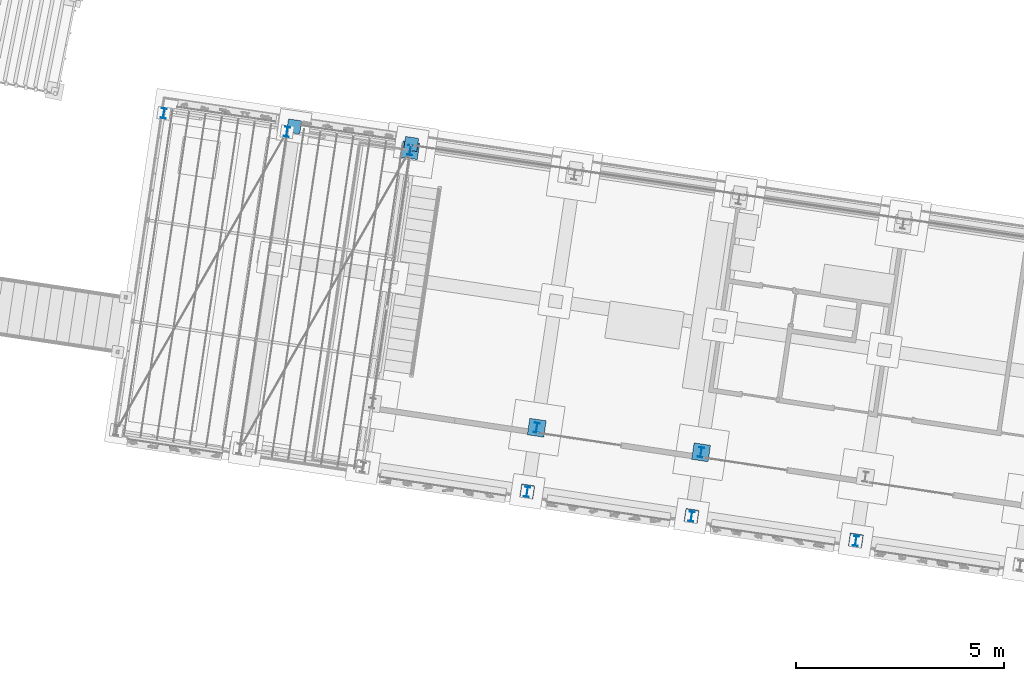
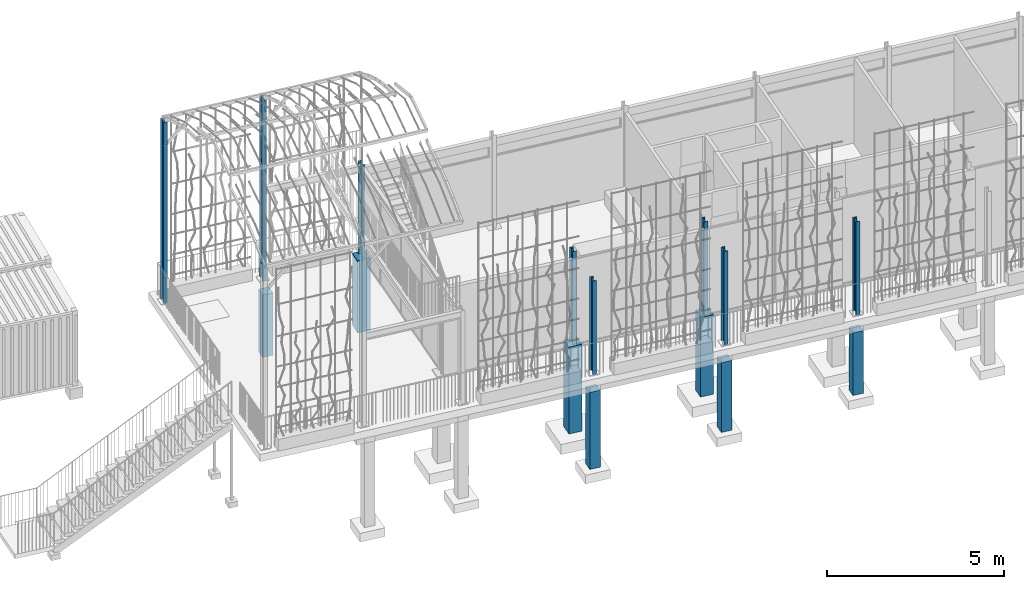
# One storey, part 4 of 143: 16 columns, 2 elements without a shape of their own.
"""IFC4 building model written with IfcOpenShell, lengths in metres."""

from ifc_helpers import new_model, si_unit, direction, frame, origin_with_axes, place, context, subcontext, project, spatial, polyline, i_section, outline, extrude, material, material_profile, profile_set, profile_usage, type_object, element, aggregate, save


model = new_model("IFC4")

# Units and contexts
model_context = context("Model", 3, precision=1e-05, world=origin_with_axes(), true_north=direction((0.0, 1.0)))
body_context = subcontext(model_context, "Body", "Model", "MODEL_VIEW")
ifc_project = project(units=[si_unit("VOLUMEUNIT", "CUBIC_METRE"), si_unit("LENGTHUNIT", "METRE"), si_unit("AREAUNIT", "SQUARE_METRE")], contexts=[model_context])

# Site, building, storey
site_placement = place(None, origin_with_axes())
site = spatial("IfcSite", under=ifc_project, at=site_placement, Name="Lares · Rua das Mercês · artigo 4771")
building_placement = place(site_placement, frame((15.0, 9.7, 15.8), z_axis=(0.0, 0.0, 1.0), x_axis=(0.989015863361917, -0.147809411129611, 0.0)))
building = spatial("IfcBuilding", under=site, at=building_placement, Name="Casa Sobreposta")
storey_placement = place(building_placement, origin_with_axes())
storey = spatial("IfcBuildingStorey", under=building, at=storey_placement, Name="00 · Habitação e estacionamento", Elevation=15.8)

# Columns
ifc_material_1 = material(Name="Aço pintado / Stahl lackiert", Category="steel")
ifc_material_profile = material_profile(ifc_material_1, i_section(OverallWidth=0.12, OverallDepth=0.24, WebThickness=0.0062, FlangeThickness=0.0098))
ifc_profile_set = profile_set([ifc_material_profile], Name="IPE240")
ifc_profile_usage_1 = profile_usage(ifc_profile_set)
column_type = type_object("IfcColumnType", Name="IPE240 / steel", PredefinedType="NOTDEFINED", material=ifc_profile_set)
column_1_placement = place(storey_placement, frame((0.0, 6.28, 0.0), z_axis=(0.0, 0.0, 1.0), x_axis=(1.0, 0.0, 0.0)))
element("IfcColumn", 1, at=column_1_placement, inside=storey, type_object=column_type, material=ifc_profile_usage_1, Name="Pilar 1B · IPE240", context=body_context, shape_type="SweptSolid", body=[
    extrude(i_section(OverallWidth=0.12, OverallDepth=0.24, WebThickness=0.0062, FlangeThickness=0.0098), origin_with_axes(), (0.0, 0.0, 1.0), 3.208),
])
ifc_profile_usage_2 = profile_usage(ifc_profile_set)
column_2_placement = place(storey_placement, frame((4.0, 0.12, 0.0), z_axis=(0.0, 0.0, 1.0), x_axis=(1.0, 0.0, 0.0)))
element("IfcColumn", 2, at=column_2_placement, inside=storey, type_object=column_type, material=ifc_profile_usage_2, Name="Pilar 2A · IPE240", context=body_context, shape_type="SweptSolid", body=[
    extrude(i_section(OverallWidth=0.12, OverallDepth=0.24, WebThickness=0.0062, FlangeThickness=0.0098), origin_with_axes(), (0.0, 0.0, 1.0), 3.208),
])
ifc_profile_usage_3 = profile_usage(ifc_profile_set)
column_3_placement = place(storey_placement, frame((8.0, 0.12, 0.0), z_axis=(0.0, 0.0, 1.0), x_axis=(1.0, 0.0, 0.0)))
element("IfcColumn", 3, at=column_3_placement, inside=storey, type_object=column_type, material=ifc_profile_usage_3, Name="Pilar 3A · IPE240", context=body_context, shape_type="SweptSolid", body=[
    extrude(i_section(OverallWidth=0.12, OverallDepth=0.24, WebThickness=0.0062, FlangeThickness=0.0098), origin_with_axes(), (0.0, 0.0, 1.0), 3.208),
])

# Assembly, columns
assembly_1_placement = place(storey_placement, origin_with_axes())
assembly_1 = element("IfcElementAssembly", 4, at=assembly_1_placement, inside=storey, Name="Pérgola · prolongamento da estufa 6 m", ObjectType="PERGOLA_GREENHOUSE_EXTENSION", PredefinedType="USERDEFINED")
ifc_profile_usage_4 = profile_usage(ifc_profile_set)
column_4_placement = place(assembly_1_placement, frame((-6.0, 6.28, -0.04), z_axis=(0.0, 0.0, 1.0), x_axis=(1.0, 0.0, 0.0)))
column_4 = element("IfcColumn", 5, at=column_4_placement, type_object=column_type, material=ifc_profile_usage_4, Name="Pérgola · pilar de duplo pé-direito", context=body_context, shape_type="SweptSolid", body=[
    extrude(i_section(OverallWidth=0.12, OverallDepth=0.24, WebThickness=0.0062, FlangeThickness=0.0098), origin_with_axes(), (0.0, 0.0, 1.0), 6.26),
])
ifc_profile_usage_5 = profile_usage(ifc_profile_set)
column_5_placement = place(assembly_1_placement, frame((-3.0, 6.28, -0.04), z_axis=(0.0, 0.0, 1.0), x_axis=(1.0, 0.0, 0.0)))
column_5 = element("IfcColumn", 6, at=column_5_placement, type_object=column_type, material=ifc_profile_usage_5, Name="Pérgola · pilar de duplo pé-direito", context=body_context, shape_type="SweptSolid", body=[
    extrude(i_section(OverallWidth=0.12, OverallDepth=0.24, WebThickness=0.0062, FlangeThickness=0.0098), origin_with_axes(), (0.0, 0.0, 1.0), 6.26),
])
aggregate(assembly_1, [column_4, column_5])

# Columns
ifc_profile_usage_6 = profile_usage(ifc_profile_set)
column_6_placement = place(storey_placement, frame((4.0, -1.44, -0.04), z_axis=(0.0, 0.0, 1.0), x_axis=(1.0, 0.0, 0.0)))
element("IfcColumn", 7, at=column_6_placement, inside=storey, type_object=column_type, material=ifc_profile_usage_6, Name="Projeção estufa · pilar sul ao pódio", context=body_context, shape_type="SweptSolid", body=[
    extrude(i_section(OverallWidth=0.12, OverallDepth=0.24, WebThickness=0.0062, FlangeThickness=0.0098), origin_with_axes(), (0.0, 0.0, 1.0), 3.248),
])
ifc_profile_usage_7 = profile_usage(ifc_profile_set)
column_7_placement = place(storey_placement, frame((8.0, -1.44, -0.04), z_axis=(0.0, 0.0, 1.0), x_axis=(1.0, 0.0, 0.0)))
element("IfcColumn", 8, at=column_7_placement, inside=storey, type_object=column_type, material=ifc_profile_usage_7, Name="Projeção estufa · pilar sul ao pódio", context=body_context, shape_type="SweptSolid", body=[
    extrude(i_section(OverallWidth=0.12, OverallDepth=0.24, WebThickness=0.0062, FlangeThickness=0.0098), origin_with_axes(), (0.0, 0.0, 1.0), 3.248),
])
ifc_profile_usage_8 = profile_usage(ifc_profile_set)
column_8_placement = place(storey_placement, frame((12.0, -1.44, -0.04), z_axis=(0.0, 0.0, 1.0), x_axis=(1.0, 0.0, 0.0)))
element("IfcColumn", 9, at=column_8_placement, inside=storey, type_object=column_type, material=ifc_profile_usage_8, Name="Projeção estufa · pilar sul ao pódio", context=body_context, shape_type="SweptSolid", body=[
    extrude(i_section(OverallWidth=0.12, OverallDepth=0.24, WebThickness=0.0062, FlangeThickness=0.0098), origin_with_axes(), (0.0, 0.0, 1.0), 3.248),
])
ifc_material_2 = material(Name="Betão armado / Stahlbeton", Category="concrete")
column_9_placement = place(storey_placement, frame((0.0, 0.0, -2.5), z_axis=(0.0, 0.0, 1.0), x_axis=(1.0, 0.0, 0.0)))
element("IfcColumn", 10, at=column_9_placement, inside=storey, material=ifc_material_2, Name="Pedestal 1B · betão 400 x 400", context=body_context, shape_type="SweptSolid", body=[
    extrude(outline(polyline([(0.2, 6.08), (0.2, 6.48), (-0.2, 6.48), (-0.2, 6.08), (0.2, 6.08)])), origin_with_axes(), (0.0, 0.0, 1.0), 2.5),
])
column_10_placement = place(storey_placement, frame((0.0, 0.0, -3.0), z_axis=(0.0, 0.0, 1.0), x_axis=(1.0, 0.0, 0.0)))
element("IfcColumn", 11, at=column_10_placement, inside=storey, material=ifc_material_2, Name="Pedestal 2A · betão 400 x 400", context=body_context, shape_type="SweptSolid", body=[
    extrude(outline(polyline([(4.2, -0.08), (4.2, 0.32), (3.8, 0.32), (3.8, -0.08), (4.2, -0.08)])), origin_with_axes(), (0.0, 0.0, 1.0), 3.0),
])
column_11_placement = place(storey_placement, frame((0.0, 0.0, -2.75), z_axis=(0.0, 0.0, 1.0), x_axis=(1.0, 0.0, 0.0)))
element("IfcColumn", 12, at=column_11_placement, inside=storey, material=ifc_material_2, Name="Pedestal 3A · betão 400 x 400", context=body_context, shape_type="SweptSolid", body=[
    extrude(outline(polyline([(8.2, -0.08), (8.2, 0.32), (7.8, 0.32), (7.8, -0.08), (8.2, -0.08)])), origin_with_axes(), (0.0, 0.0, 1.0), 2.75),
])

# Assembly, columns
assembly_2_placement = place(storey_placement, origin_with_axes())
assembly_2 = element("IfcElementAssembly", 13, at=assembly_2_placement, inside=storey, Name="Pódio · terraço, casa térrea e cisterna", ObjectType="CISTERN_PODIUM", PredefinedType="USERDEFINED")
column_12_placement = place(assembly_2_placement, frame((0.0, 0.0, -2.75), z_axis=(0.0, 0.0, 1.0), x_axis=(1.0, 0.0, 0.0)))
column_12 = element("IfcColumn", 14, at=column_12_placement, material=ifc_material_2, Name="Pódio suspenso · apoio sobre o terreno", context=body_context, shape_type="SweptSolid", body=[
    extrude(outline(polyline([(-2.69, 6.27), (-2.69, 6.59), (-3.01, 6.59), (-3.01, 6.27), (-2.69, 6.27)])), origin_with_axes(), (0.0, 0.0, 1.0), 2.16),
])
column_13_placement = place(assembly_2_placement, frame((0.0, 0.0, -2.5), z_axis=(0.0, 0.0, 1.0), x_axis=(1.0, 0.0, 0.0)))
column_13 = element("IfcColumn", 15, at=column_13_placement, material=ifc_material_2, Name="Pódio suspenso · apoio sobre o terreno", context=body_context, shape_type="SweptSolid", body=[
    extrude(outline(polyline([(0.16, 6.27), (0.16, 6.59), (-0.16, 6.59), (-0.16, 6.27), (0.16, 6.27)])), origin_with_axes(), (0.0, 0.0, 1.0), 1.91),
])
column_14_placement = place(assembly_2_placement, frame((0.0, 0.0, -3.25), z_axis=(0.0, 0.0, 1.0), x_axis=(1.0, 0.0, 0.0)))
column_14 = element("IfcColumn", 16, at=column_14_placement, material=ifc_material_2, Name="Pódio suspenso · apoio sobre o terreno", context=body_context, shape_type="SweptSolid", body=[
    extrude(outline(polyline([(4.16, -1.59), (4.16, -1.27), (3.84, -1.27), (3.84, -1.59), (4.16, -1.59)])), origin_with_axes(), (0.0, 0.0, 1.0), 2.66),
])
column_15_placement = place(assembly_2_placement, frame((0.0, 0.0, -3.0), z_axis=(0.0, 0.0, 1.0), x_axis=(1.0, 0.0, 0.0)))
column_15 = element("IfcColumn", 17, at=column_15_placement, material=ifc_material_2, Name="Pódio suspenso · apoio sobre o terreno", context=body_context, shape_type="SweptSolid", body=[
    extrude(outline(polyline([(8.16, -1.59), (8.16, -1.27), (7.84, -1.27), (7.84, -1.59), (8.16, -1.59)])), origin_with_axes(), (0.0, 0.0, 1.0), 2.41),
])
column_16_placement = place(assembly_2_placement, frame((0.0, 0.0, -2.75), z_axis=(0.0, 0.0, 1.0), x_axis=(1.0, 0.0, 0.0)))
column_16 = element("IfcColumn", 18, at=column_16_placement, material=ifc_material_2, Name="Pódio suspenso · apoio sobre o terreno", context=body_context, shape_type="SweptSolid", body=[
    extrude(outline(polyline([(12.16, -1.59), (12.16, -1.27), (11.84, -1.27), (11.84, -1.59), (12.16, -1.59)])), origin_with_axes(), (0.0, 0.0, 1.0), 2.16),
])
aggregate(assembly_2, [column_12, column_13, column_14, column_15, column_16])

save(model, "model.ifc")
